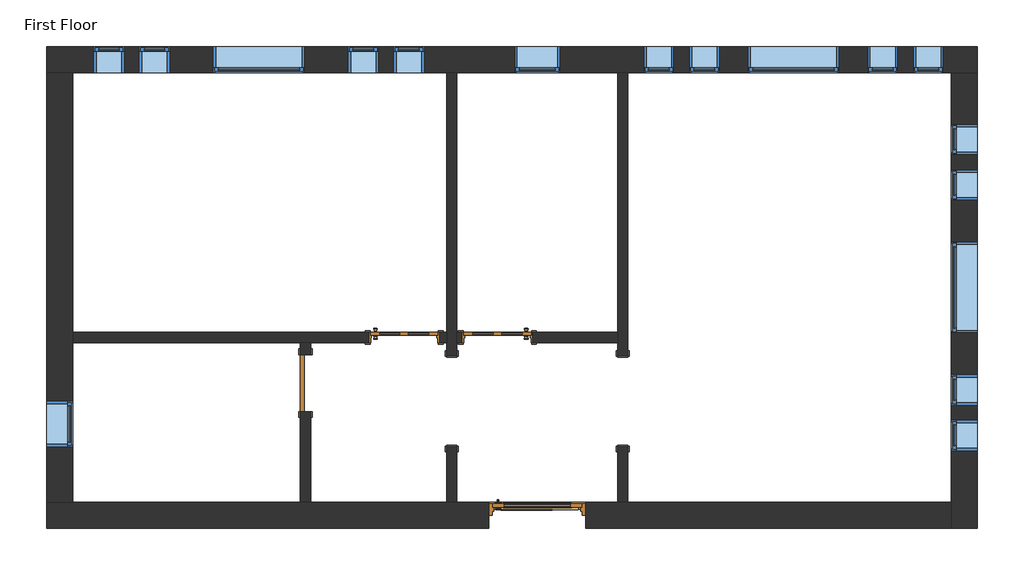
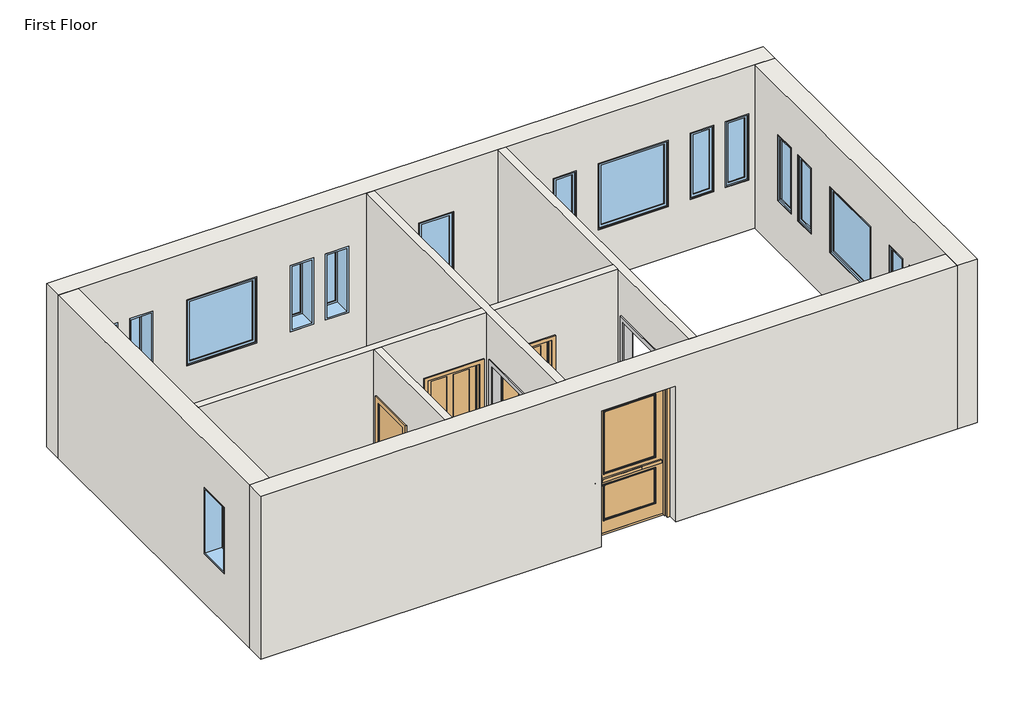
# One storey: 17 windows, 8 walls, 4 doors, 2 proxies.
"""IFC4 building model written with IfcOpenShell, lengths in millimetres."""

from ifc_helpers import new_model, si_unit, frame, origin, place, context, project, spatial, polyline, outline, extrude, faceted_brep, transform, mapped, element, save
from components import m_passage_opening_cased_1220_x_2134_mm_87a8d9c2, m_door_exterior_single_two_lite_1200_x_2400mm_30e12bfc, m_door_interior_single_4_panel_wood_900_x_2100mm_1f4ed184, m_door_interior_single_4_panel_wood_900_x_2100mm_40914eee, m_single_flush_0762_x_2134mm_0d89e411, m_fixed_0406_x_1220mm_57fee329, m_fixed_0406_x_1220mm_85c28f40, m_fixed_0610_x_1220mm_2c28ef1d, m_fixed_1220_x_1220_e08ff7af

model = new_model("IFC4")

# Units and contexts
model_context = context("Model", 3, world=origin())
ifc_project = project(units=[si_unit("LENGTHUNIT", "METRE", prefix="MILLI")], contexts=[model_context])

# Site, building, storey
site = spatial("IfcSite", under=ifc_project)
building = spatial("IfcBuilding", under=site)
storey = spatial("IfcBuildingStorey", under=building, Name="First Floor", Elevation=0.0)

# Proxies
placement = place(None, origin())
m_passage_opening_cased_1220_x_2134_mm_shape = m_passage_opening_cased_1220_x_2134_mm_87a8d9c2(model_context)
element("IfcBuildingElementProxy", 1, Name="M_Passage Opening-Cased : 1220 x 2134 mm", ObjectType="M_Passage Opening-Cased : 1220 x 2134 mm", at=placement, inside=storey, context=model_context, shape_type="MappedRepresentation", body=[
    mapped(m_passage_opening_cased_1220_x_2134_mm_shape, transform((-10841.0930086, 9462.255705, 0.0), x_axis=(0.0, 1.0, 0.0), y_axis=(-1.0, 0.0, 0.0), z_axis=(0.0, 0.0, 1.0))),
])
element("IfcBuildingElementProxy", 2, Name="M_Passage Opening-Cased : 1220 x 2134 mm", ObjectType="M_Passage Opening-Cased : 1220 x 2134 mm", at=placement, inside=storey, context=model_context, shape_type="MappedRepresentation", body=[
    mapped(m_passage_opening_cased_1220_x_2134_mm_shape, transform((-13127.0930086, 9445.8783915, 0.0), x_axis=(0.0, -1.0, 0.0), y_axis=(1.0, 0.0, 0.0), z_axis=(0.0, 0.0, 1.0))),
])

# Doors
m_door_exterior_single_two_lite_1200_x_2400mm_shape = m_door_exterior_single_two_lite_1200_x_2400mm_30e12bfc(model_context)
element("IfcDoor", 3, ObjectType="M_Door-Exterior-Single-Two_Lite : 1200 x 2400mm", at=placement, inside=storey, context=model_context, shape_type="MappedRepresentation", body=[
    mapped(m_door_exterior_single_two_lite_1200_x_2400mm_shape, transform((-11984.0930086, 7923.7170483, 0.0), x_axis=(1.0, 0.0, 0.0), y_axis=(0.0, 1.0, 0.0), z_axis=(0.0, 0.0, 1.0))),
])
m_door_interior_single_4_panel_wood_900_x_2100mm_shape = m_door_interior_single_4_panel_wood_900_x_2100mm_1f4ed184(model_context)
element("IfcDoor", 4, ObjectType="M_Door-Interior-Single-4_Panel-Wood : 900 x 2100mm", at=placement, inside=storey, context=model_context, shape_type="MappedRepresentation", body=[
    mapped(m_door_interior_single_4_panel_wood_900_x_2100mm_shape, transform((-12518.0930086, 10309.9920483, 0.0), x_axis=(-1.0, 0.0, 0.0), y_axis=(0.0, -1.0, 0.0), z_axis=(0.0, 0.0, 1.0))),
])
m_door_interior_single_4_panel_wood_900_x_2100mm_2_shape = m_door_interior_single_4_panel_wood_900_x_2100mm_40914eee(model_context)
element("IfcDoor", 5, ObjectType="M_Door-Interior-Single-4_Panel-Wood : 900 x 2100mm", at=placement, inside=storey, context=model_context, shape_type="MappedRepresentation", body=[
    mapped(m_door_interior_single_4_panel_wood_900_x_2100mm_2_shape, transform((-13766.0930086, 10309.9920483, 0.0), x_axis=(1.0, 0.0, 0.0), y_axis=(0.0, 1.0, 0.0), z_axis=(0.0, 0.0, 1.0))),
])
m_single_flush_0762_x_2134mm_shape = m_single_flush_0762_x_2134mm_0d89e411(model_context)
element("IfcDoor", 6, ObjectType="M_Single-Flush : 0762 x 2134mm", at=placement, inside=storey, context=model_context, shape_type="MappedRepresentation", body=[
    mapped(m_single_flush_0762_x_2134mm_shape, transform((-15086.0930086, 9696.8170483, 0.0), x_axis=(0.0, 1.0, 0.0), y_axis=(-1.0, 0.0, 0.0), z_axis=(0.0, 0.0, 1.0))),
])

# Walls
element("IfcWall", 7, ObjectType="Exterior - Brick on Mtl. Stud", at=placement, inside=storey, context=model_context, shape_type="Brep", body=[
    faceted_brep([(-18551.8430086, 13851.0670483, 0.0), (-18201.8430086, 13851.0670483, 0.0), (-13194.8430086, 13851.0670483, 0.0), (-13059.3430086, 13851.0670483, 0.0), (-10908.8430086, 13851.0670483, 0.0), (-10773.3430086, 13851.0670483, 0.0), (-6444.0930086, 13851.0670483, 0.0), (-6094.0930086, 13851.0670483, 0.0), (-6094.0930086, 13851.0670483, 3000.0), (-6444.0930086, 13851.0670483, 3000.0), (-10773.3430086, 13851.0670483, 3000.0), (-10908.8430086, 13851.0670483, 3000.0), (-13059.3430086, 13851.0670483, 3000.0), (-13194.8430086, 13851.0670483, 3000.0), (-18201.8430086, 13851.0670483, 3000.0), (-18551.8430086, 13851.0670483, 3000.0), (-11679.0930086, 13851.0670483, 915.0), (-12289.0930086, 13851.0670483, 915.0), (-12289.0930086, 13851.0670483, 2135.0), (-11679.0930086, 13851.0670483, 2135.0), (-15099.8430086, 13851.0670483, 915.0), (-16319.8430086, 13851.0670483, 915.0), (-16319.8430086, 13851.0670483, 2135.0), (-15099.8430086, 13851.0670483, 2135.0), (-7945.0930086, 13851.0670483, 915.0), (-9165.0930086, 13851.0670483, 915.0), (-9165.0930086, 13851.0670483, 2135.0), (-7945.0930086, 13851.0670483, 2135.0), (-17919.4430086, 13851.0670483, 915.0), (-17919.4430086, 13851.0670483, 2135.0), (-17513.4430086, 13851.0670483, 2135.0), (-17513.4430086, 13851.0670483, 915.0), (-17309.8430086, 13851.0670483, 915.0), (-17309.8430086, 13851.0670483, 2135.0), (-16903.8430086, 13851.0670483, 2135.0), (-16903.8430086, 13851.0670483, 915.0), (-14109.8430086, 13851.0670483, 915.0), (-14515.8430086, 13851.0670483, 915.0), (-14515.8430086, 13851.0670483, 2135.0), (-14109.8430086, 13851.0670483, 2135.0), (-13500.2430086, 13851.0670483, 915.0), (-13906.2430086, 13851.0670483, 915.0), (-13906.2430086, 13851.0670483, 2135.0), (-13500.2430086, 13851.0670483, 2135.0), (-10155.0930086, 13851.0670483, 915.0), (-10561.0930086, 13851.0670483, 915.0), (-10561.0930086, 13851.0670483, 2135.0), (-10155.0930086, 13851.0670483, 2135.0), (-9545.4930086, 13851.0670483, 915.0), (-9951.4930086, 13851.0670483, 915.0), (-9951.4930086, 13851.0670483, 2135.0), (-9545.4930086, 13851.0670483, 2135.0), (-6955.0930086, 13851.0670483, 915.0), (-6955.0930086, 13851.0670483, 2135.0), (-6549.0930086, 13851.0670483, 2135.0), (-6549.0930086, 13851.0670483, 915.0), (-7564.6930086, 13851.0670483, 915.0), (-7564.6930086, 13851.0670483, 2135.0), (-7158.6930086, 13851.0670483, 2135.0), (-7158.6930086, 13851.0670483, 915.0), (-18551.8430086, 14201.0670483, 0.0), (-18551.8430086, 14201.0670483, 3000.0), (-6094.0930086, 14201.0670483, 3000.0), (-6094.0930086, 14201.0670483, 0.0), (-11679.0930086, 14201.0670483, 915.0), (-11679.0930086, 14201.0670483, 2135.0), (-12289.0930086, 14201.0670483, 2135.0), (-12289.0930086, 14201.0670483, 915.0), (-15099.8430086, 14201.0670483, 915.0), (-15099.8430086, 14201.0670483, 2135.0), (-16319.8430086, 14201.0670483, 2135.0), (-16319.8430086, 14201.0670483, 915.0), (-7945.0930086, 14201.0670483, 915.0), (-7945.0930086, 14201.0670483, 2135.0), (-9165.0930086, 14201.0670483, 2135.0), (-9165.0930086, 14201.0670483, 915.0), (-17919.4430086, 14201.0670483, 915.0), (-17513.4430086, 14201.0670483, 915.0), (-17513.4430086, 14201.0670483, 2135.0), (-17919.4430086, 14201.0670483, 2135.0), (-17309.8430086, 14201.0670483, 915.0), (-16903.8430086, 14201.0670483, 915.0), (-16903.8430086, 14201.0670483, 2135.0), (-17309.8430086, 14201.0670483, 2135.0), (-14109.8430086, 14201.0670483, 915.0), (-14109.8430086, 14201.0670483, 2135.0), (-14515.8430086, 14201.0670483, 2135.0), (-14515.8430086, 14201.0670483, 915.0), (-13500.2430086, 14201.0670483, 915.0), (-13500.2430086, 14201.0670483, 2135.0), (-13906.2430086, 14201.0670483, 2135.0), (-13906.2430086, 14201.0670483, 915.0), (-10155.0930086, 14201.0670483, 915.0), (-10155.0930086, 14201.0670483, 2135.0), (-10561.0930086, 14201.0670483, 2135.0), (-10561.0930086, 14201.0670483, 915.0), (-9545.4930086, 14201.0670483, 915.0), (-9545.4930086, 14201.0670483, 2135.0), (-9951.4930086, 14201.0670483, 2135.0), (-9951.4930086, 14201.0670483, 915.0), (-6955.0930086, 14201.0670483, 915.0), (-6549.0930086, 14201.0670483, 915.0), (-6549.0930086, 14201.0670483, 2135.0), (-6955.0930086, 14201.0670483, 2135.0), (-7564.6930086, 14201.0670483, 915.0), (-7158.6930086, 14201.0670483, 915.0), (-7158.6930086, 14201.0670483, 2135.0), (-7564.6930086, 14201.0670483, 2135.0)], [[[0, 1, 2, 3, 4, 5, 6, 7, 8, 9, 10, 11, 12, 13, 14, 15], [16, 17, 18, 19], [20, 21, 22, 23], [24, 25, 26, 27], [28, 29, 30, 31], [32, 33, 34, 35], [36, 37, 38, 39], [40, 41, 42, 43], [44, 45, 46, 47], [48, 49, 50, 51], [52, 53, 54, 55], [56, 57, 58, 59]], [[60, 61, 62, 63], [64, 65, 66, 67], [68, 69, 70, 71], [72, 73, 74, 75], [76, 77, 78, 79], [80, 81, 82, 83], [84, 85, 86, 87], [88, 89, 90, 91], [92, 93, 94, 95], [96, 97, 98, 99], [100, 101, 102, 103], [104, 105, 106, 107]], [[7, 6, 5, 4, 3, 2, 1, 0, 60, 63]], [[15, 14, 13, 12, 11, 10, 9, 8, 62, 61]], [[8, 7, 63, 62]], [[0, 15, 61, 60]], [[65, 64, 16, 19]], [[66, 65, 19, 18]], [[67, 66, 18, 17]], [[64, 67, 17, 16]], [[69, 68, 20, 23]], [[70, 69, 23, 22]], [[71, 70, 22, 21]], [[68, 71, 21, 20]], [[73, 72, 24, 27]], [[74, 73, 27, 26]], [[75, 74, 26, 25]], [[72, 75, 25, 24]], [[29, 28, 76, 79]], [[30, 29, 79, 78]], [[31, 30, 78, 77]], [[28, 31, 77, 76]], [[33, 32, 80, 83]], [[34, 33, 83, 82]], [[35, 34, 82, 81]], [[32, 35, 81, 80]], [[85, 84, 36, 39]], [[86, 85, 39, 38]], [[87, 86, 38, 37]], [[84, 87, 37, 36]], [[89, 88, 40, 43]], [[90, 89, 43, 42]], [[91, 90, 42, 41]], [[88, 91, 41, 40]], [[93, 92, 44, 47]], [[94, 93, 47, 46]], [[95, 94, 46, 45]], [[92, 95, 45, 44]], [[97, 96, 48, 51]], [[98, 97, 51, 50]], [[99, 98, 50, 49]], [[96, 99, 49, 48]], [[53, 52, 100, 103]], [[54, 53, 103, 102]], [[55, 54, 102, 101]], [[52, 55, 101, 100]], [[57, 56, 104, 107]], [[58, 57, 107, 106]], [[59, 58, 106, 105]], [[56, 59, 105, 104]]]),
])
element("IfcWall", 8, ObjectType="Exterior - Brick on Mtl. Stud", at=placement, inside=storey, context=model_context, shape_type="Brep", body=[
    faceted_brep([(-6444.0930086, 13851.0670483, 0.0), (-6444.0930086, 8105.0670483, 0.0), (-6444.0930086, 7755.0670483, 0.0), (-6444.0930086, 7755.0670483, 3000.0), (-6444.0930086, 8105.0670483, 3000.0), (-6444.0930086, 13851.0670483, 3000.0), (-6444.0930086, 10368.0670483, 915.0), (-6444.0930086, 11588.0670483, 915.0), (-6444.0930086, 11588.0670483, 2135.0), (-6444.0930086, 10368.0670483, 2135.0), (-6444.0930086, 12756.2670483, 915.0), (-6444.0930086, 13162.2670483, 915.0), (-6444.0930086, 13162.2670483, 2135.0), (-6444.0930086, 12756.2670483, 2135.0), (-6444.0930086, 12146.6670483, 915.0), (-6444.0930086, 12552.6670483, 915.0), (-6444.0930086, 12552.6670483, 2135.0), (-6444.0930086, 12146.6670483, 2135.0), (-6444.0930086, 9199.8670483, 915.0), (-6444.0930086, 9199.8670483, 2135.0), (-6444.0930086, 8793.8670483, 2135.0), (-6444.0930086, 8793.8670483, 915.0), (-6444.0930086, 9809.4670483, 915.0), (-6444.0930086, 9809.4670483, 2135.0), (-6444.0930086, 9403.4670483, 2135.0), (-6444.0930086, 9403.4670483, 915.0), (-6094.0930086, 13851.0670483, 0.0), (-6094.0930086, 13851.0670483, 3000.0), (-6094.0930086, 7755.0670483, 3000.0), (-6094.0930086, 7755.0670483, 0.0), (-6094.0930086, 10368.0670483, 915.0), (-6094.0930086, 10368.0670483, 2135.0), (-6094.0930086, 11588.0670483, 2135.0), (-6094.0930086, 11588.0670483, 915.0), (-6094.0930086, 12756.2670483, 915.0), (-6094.0930086, 12756.2670483, 2135.0), (-6094.0930086, 13162.2670483, 2135.0), (-6094.0930086, 13162.2670483, 915.0), (-6094.0930086, 12146.6670483, 915.0), (-6094.0930086, 12146.6670483, 2135.0), (-6094.0930086, 12552.6670483, 2135.0), (-6094.0930086, 12552.6670483, 915.0), (-6094.0930086, 9199.8670483, 915.0), (-6094.0930086, 8793.8670483, 915.0), (-6094.0930086, 8793.8670483, 2135.0), (-6094.0930086, 9199.8670483, 2135.0), (-6094.0930086, 9809.4670483, 915.0), (-6094.0930086, 9403.4670483, 915.0), (-6094.0930086, 9403.4670483, 2135.0), (-6094.0930086, 9809.4670483, 2135.0)], [[[0, 1, 2, 3, 4, 5], [6, 7, 8, 9], [10, 11, 12, 13], [14, 15, 16, 17], [18, 19, 20, 21], [22, 23, 24, 25]], [[26, 27, 28, 29], [30, 31, 32, 33], [34, 35, 36, 37], [38, 39, 40, 41], [42, 43, 44, 45], [46, 47, 48, 49]], [[2, 1, 0, 26, 29]], [[5, 4, 3, 28, 27]], [[0, 5, 27, 26]], [[3, 2, 29, 28]], [[31, 30, 6, 9]], [[32, 31, 9, 8]], [[33, 32, 8, 7]], [[30, 33, 7, 6]], [[35, 34, 10, 13]], [[36, 35, 13, 12]], [[37, 36, 12, 11]], [[34, 37, 11, 10]], [[39, 38, 14, 17]], [[40, 39, 17, 16]], [[41, 40, 16, 15]], [[38, 41, 15, 14]], [[19, 18, 42, 45]], [[20, 19, 45, 44]], [[21, 20, 44, 43]], [[18, 21, 43, 42]], [[23, 22, 46, 49]], [[24, 23, 49, 48]], [[25, 24, 48, 47]], [[22, 25, 47, 46]]]),
])
element("IfcWall", 9, ObjectType="Exterior - Brick on Mtl. Stud", at=placement, inside=storey, context=model_context, shape_type="Brep", body=[
    faceted_brep([(-18551.8430086, 8105.0670483, 3000.0), (-18201.8430086, 8105.0670483, 3000.0), (-15153.8430086, 8105.0670483, 3000.0), (-15018.3430086, 8105.0670483, 3000.0), (-13194.8430086, 8105.0670483, 3000.0), (-13059.3430086, 8105.0670483, 3000.0), (-10908.8430086, 8105.0670483, 3000.0), (-10773.3430086, 8105.0670483, 3000.0), (-6444.0930086, 8105.0670483, 3000.0), (-6444.0930086, 8105.0670483, 0.0), (-10773.3430086, 8105.0670483, 0.0), (-10908.8430086, 8105.0670483, 0.0), (-11334.0930086, 8105.0670483, 0.0), (-11334.0930086, 8105.0670483, 2500.0), (-12634.0930086, 8105.0670483, 2500.0), (-12634.0930086, 8105.0670483, 0.0), (-13059.3430086, 8105.0670483, 0.0), (-13194.8430086, 8105.0670483, 0.0), (-15018.3430086, 8105.0670483, 0.0), (-15153.8430086, 8105.0670483, 0.0), (-18201.8430086, 8105.0670483, 0.0), (-18551.8430086, 8105.0670483, 0.0), (-6444.0930086, 7755.0670483, 3000.0), (-18551.8430086, 7755.0670483, 3000.0), (-18551.8430086, 7755.0670483, 0.0), (-12634.0930086, 7755.0670483, 0.0), (-12634.0930086, 7755.0670483, 2500.0), (-11334.0930086, 7755.0670483, 2500.0), (-11334.0930086, 7755.0670483, 0.0), (-6444.0930086, 7755.0670483, 0.0)], [[[0, 1, 2, 3, 4, 5, 6, 7, 8, 9, 10, 11, 12, 13, 14, 15, 16, 17, 18, 19, 20, 21]], [[22, 23, 24, 25, 26, 27, 28, 29]], [[9, 29, 28, 12, 11, 10]], [[24, 21, 20, 19, 18, 17, 16, 15, 25]], [[8, 7, 6, 5, 4, 3, 2, 1, 0, 23, 22]], [[9, 8, 22, 29]], [[0, 21, 24, 23]], [[27, 13, 12, 28]], [[13, 27, 26, 14]], [[14, 26, 25, 15]]]),
])
element("IfcWall", 10, ObjectType="Exterior - Brick on Mtl. Stud", at=placement, inside=storey, context=model_context, shape_type="Brep", body=[
    faceted_brep([(-18201.8430086, 8105.0670483, 0.0), (-18201.8430086, 10239.0670483, 0.0), (-18201.8430086, 10374.5670483, 0.0), (-18201.8430086, 13851.0670483, 0.0), (-18201.8430086, 13851.0670483, 3000.0), (-18201.8430086, 10374.5670483, 3000.0), (-18201.8430086, 10239.0670483, 3000.0), (-18201.8430086, 8105.0670483, 3000.0), (-18201.8430086, 9455.0670483, 915.0), (-18201.8430086, 8845.0670483, 915.0), (-18201.8430086, 8845.0670483, 2135.0), (-18201.8430086, 9455.0670483, 2135.0), (-18551.8430086, 8105.0670483, 0.0), (-18551.8430086, 8105.0670483, 3000.0), (-18551.8430086, 13851.0670483, 3000.0), (-18551.8430086, 13851.0670483, 0.0), (-18551.8430086, 9455.0670483, 915.0), (-18551.8430086, 9455.0670483, 2135.0), (-18551.8430086, 8845.0670483, 2135.0), (-18551.8430086, 8845.0670483, 915.0)], [[[0, 1, 2, 3, 4, 5, 6, 7], [8, 9, 10, 11]], [[12, 13, 14, 15], [16, 17, 18, 19]], [[3, 2, 1, 0, 12, 15]], [[7, 6, 5, 4, 14, 13]], [[0, 7, 13, 12]], [[4, 3, 15, 14]], [[17, 16, 8, 11]], [[18, 17, 11, 10]], [[19, 18, 10, 9]], [[16, 19, 9, 8]]]),
])
element("IfcWall", 11, ObjectType="Interior - 135mm Partition (2-hr)", at=placement, inside=storey, context=model_context, shape_type="Brep", body=[
    faceted_brep([(-10908.8430086, 13851.0670483, 0.0), (-10908.8430086, 10374.5670483, 0.0), (-10908.8430086, 10239.0670483, 0.0), (-10908.8430086, 10064.0670483, 0.0), (-10908.8430086, 10064.0670483, 2134.0), (-10908.8430086, 8844.0670483, 2134.0), (-10908.8430086, 8844.0670483, 0.0), (-10908.8430086, 8105.0670483, 0.0), (-10908.8430086, 8105.0670483, 3000.0), (-10908.8430086, 10239.0670483, 3000.0), (-10908.8430086, 10374.5670483, 3000.0), (-10908.8430086, 13851.0670483, 3000.0), (-10773.3430086, 10064.0670483, 2134.0), (-10773.3430086, 10064.0670483, 0.0), (-10773.3430086, 13851.0670483, 0.0), (-10773.3430086, 13851.0670483, 3000.0), (-10773.3430086, 8105.0670483, 3000.0), (-10773.3430086, 8105.0670483, 0.0), (-10773.3430086, 8844.0670483, 0.0), (-10773.3430086, 8844.0670483, 2134.0)], [[[0, 1, 2, 3, 4, 5, 6, 7, 8, 9, 10, 11]], [[12, 13, 14, 15, 16, 17, 18, 19]], [[18, 17, 7, 6]], [[14, 13, 3, 2, 1, 0]], [[11, 10, 9, 8, 16, 15]], [[0, 11, 15, 14]], [[8, 7, 17, 16]], [[6, 5, 19, 18]], [[4, 3, 13, 12]], [[5, 4, 12, 19]]]),
])
element("IfcWall", 12, ObjectType="Interior - 135mm Partition (2-hr)", at=placement, inside=storey, context=model_context, shape_type="Brep", body=[
    faceted_brep([(-13194.8430086, 8105.0670483, 3000.0), (-13194.8430086, 10239.0670483, 3000.0), (-13194.8430086, 10374.5670483, 3000.0), (-13194.8430086, 13851.0670483, 3000.0), (-13194.8430086, 13851.0670483, 0.0), (-13194.8430086, 10374.5670483, 0.0), (-13194.8430086, 10239.0670483, 0.0), (-13194.8430086, 10064.0670483, 0.0), (-13194.8430086, 10064.0670483, 2134.0), (-13194.8430086, 8844.0670483, 2134.0), (-13194.8430086, 8844.0670483, 0.0), (-13194.8430086, 8105.0670483, 0.0), (-13059.3430086, 13851.0670483, 3000.0), (-13059.3430086, 10374.5670483, 3000.0), (-13059.3430086, 10239.0670483, 3000.0), (-13059.3430086, 8105.0670483, 3000.0), (-13059.3430086, 8105.0670483, 0.0), (-13059.3430086, 8844.0670483, 0.0), (-13059.3430086, 8844.0670483, 2134.0), (-13059.3430086, 10064.0670483, 2134.0), (-13059.3430086, 10064.0670483, 0.0), (-13059.3430086, 10239.0670483, 0.0), (-13059.3430086, 10374.5670483, 0.0), (-13059.3430086, 13851.0670483, 0.0)], [[[0, 1, 2, 3, 4, 5, 6, 7, 8, 9, 10, 11]], [[12, 13, 14, 15, 16, 17, 18, 19, 20, 21, 22, 23]], [[4, 23, 22, 21, 20, 7, 6, 5]], [[16, 11, 10, 17]], [[3, 2, 1, 0, 15, 14, 13, 12]], [[4, 3, 12, 23]], [[0, 11, 16, 15]], [[19, 8, 7, 20]], [[9, 18, 17, 10]], [[8, 19, 18, 9]]]),
])
element("IfcWall", 13, ObjectType="Interior - 135mm Partition (2-hr)", at=placement, inside=storey, context=model_context, shape_type="Brep", body=[
    faceted_brep([(-18201.8430086, 10239.0670483, 3000.0), (-18201.8430086, 10239.0670483, 0.0), (-15153.8430086, 10239.0670483, 0.0), (-15018.3430086, 10239.0670483, 0.0), (-14241.0930086, 10239.0670483, 0.0), (-14241.0930086, 10239.0670483, 2125.0), (-13291.0930086, 10239.0670483, 2125.0), (-13291.0930086, 10239.0670483, 0.0), (-13194.8430086, 10239.0670483, 0.0), (-13194.8430086, 10239.0670483, 3000.0), (-15018.3430086, 10239.0670483, 3000.0), (-15153.8430086, 10239.0670483, 3000.0), (-18201.8430086, 10374.5670483, 0.0), (-18201.8430086, 10374.5670483, 3000.0), (-13194.8430086, 10374.5670483, 3000.0), (-13194.8430086, 10374.5670483, 0.0), (-13291.0930086, 10374.5670483, 0.0), (-13291.0930086, 10374.5670483, 2125.0), (-14241.0930086, 10374.5670483, 2125.0), (-14241.0930086, 10374.5670483, 0.0)], [[[0, 1, 2, 3, 4, 5, 6, 7, 8, 9, 10, 11]], [[12, 13, 14, 15, 16, 17, 18, 19]], [[1, 12, 19, 4, 3, 2]], [[7, 16, 15, 8]], [[13, 0, 11, 10, 9, 14]], [[1, 0, 13, 12]], [[9, 8, 15, 14]], [[6, 17, 16, 7]], [[17, 6, 5, 18]], [[18, 5, 4, 19]]]),
    faceted_brep([(-10908.8430086, 10239.0670483, 0.0), (-10908.8430086, 10239.0670483, 3000.0), (-13059.3430086, 10239.0670483, 3000.0), (-13059.3430086, 10239.0670483, 0.0), (-12993.0930086, 10239.0670483, 0.0), (-12993.0930086, 10239.0670483, 2125.0), (-12043.0930086, 10239.0670483, 2125.0), (-12043.0930086, 10239.0670483, 0.0), (-10908.8430086, 10374.5670483, 3000.0), (-10908.8430086, 10374.5670483, 0.0), (-12043.0930086, 10374.5670483, 0.0), (-12043.0930086, 10374.5670483, 2125.0), (-12993.0930086, 10374.5670483, 2125.0), (-12993.0930086, 10374.5670483, 0.0), (-13059.3430086, 10374.5670483, 0.0), (-13059.3430086, 10374.5670483, 3000.0)], [[[0, 1, 2, 3, 4, 5, 6, 7]], [[8, 9, 10, 11, 12, 13, 14, 15]], [[9, 0, 7, 10]], [[13, 4, 3, 14]], [[1, 8, 15, 2]], [[1, 0, 9, 8]], [[3, 2, 15, 14]], [[5, 4, 13, 12]], [[6, 5, 12, 11]], [[7, 6, 11, 10]]]),
])
element("IfcWall", 14, ObjectType="Interior - 135mm Partition (2-hr)", at=placement, inside=storey, context=model_context, shape_type="SweptSolid", body=[
    extrude(outline(polyline([(10239.0670483, 0.0), (10077.8170483, 0.0), (10077.8170483, 2134.0), (9315.8170483, 2134.0), (9315.8170483, 0.0), (8105.0670483, 0.0), (8105.0670483, 3000.0), (10239.0670483, 3000.0), (10239.0670483, 0.0)])), frame((-15153.8430086, 0.0, 0.0), z_axis=(1.0, 0.0, 0.0), x_axis=(0.0, 1.0, 0.0)), (0.0, 0.0, 1.0), 135.5),
])

# Windows
m_fixed_0406_x_1220mm_shape = m_fixed_0406_x_1220mm_57fee329(model_context)
element("IfcWindow", 15, ObjectType="M_Fixed : 0406 x 1220mm", at=placement, inside=storey, context=model_context, shape_type="MappedRepresentation", body=[
    mapped(m_fixed_0406_x_1220mm_shape, transform((-17716.4430086, 14013.0670483, 0.0), x_axis=(1.0, 0.0, 0.0), y_axis=(0.0, 1.0, 0.0), z_axis=(0.0, 0.0, 1.0))),
])
element("IfcWindow", 16, ObjectType="M_Fixed : 0406 x 1220mm", at=placement, inside=storey, context=model_context, shape_type="MappedRepresentation", body=[
    mapped(m_fixed_0406_x_1220mm_shape, transform((-17106.8430086, 14013.0670483, 0.0), x_axis=(1.0, 0.0, 0.0), y_axis=(0.0, 1.0, 0.0), z_axis=(0.0, 0.0, 1.0))),
])
element("IfcWindow", 17, ObjectType="M_Fixed : 0406 x 1220mm", at=placement, inside=storey, context=model_context, shape_type="MappedRepresentation", body=[
    mapped(m_fixed_0406_x_1220mm_shape, transform((-9748.4930086, 14039.0670483, 0.0), x_axis=(-1.0, 0.0, 0.0), y_axis=(0.0, -1.0, 0.0), z_axis=(0.0, 0.0, 1.0))),
])
element("IfcWindow", 18, ObjectType="M_Fixed : 0406 x 1220mm", at=placement, inside=storey, context=model_context, shape_type="MappedRepresentation", body=[
    mapped(m_fixed_0406_x_1220mm_shape, transform((-10358.0930086, 14039.0670483, 0.0), x_axis=(-1.0, 0.0, 0.0), y_axis=(0.0, -1.0, 0.0), z_axis=(0.0, 0.0, 1.0))),
])
element("IfcWindow", 19, ObjectType="M_Fixed : 0406 x 1220mm", at=placement, inside=storey, context=model_context, shape_type="MappedRepresentation", body=[
    mapped(m_fixed_0406_x_1220mm_shape, transform((-6256.0930086, 12349.6670483, 0.0), x_axis=(0.0, 1.0, 0.0), y_axis=(-1.0, 0.0, 0.0), z_axis=(0.0, 0.0, 1.0))),
])
element("IfcWindow", 20, ObjectType="M_Fixed : 0406 x 1220mm", at=placement, inside=storey, context=model_context, shape_type="MappedRepresentation", body=[
    mapped(m_fixed_0406_x_1220mm_shape, transform((-6256.0930086, 12959.2670483, 0.0), x_axis=(0.0, 1.0, 0.0), y_axis=(-1.0, 0.0, 0.0), z_axis=(0.0, 0.0, 1.0))),
])
m_fixed_0406_x_1220mm_2_shape = m_fixed_0406_x_1220mm_85c28f40(model_context)
element("IfcWindow", 21, ObjectType="M_Fixed : 0406 x 1220mm", at=placement, inside=storey, context=model_context, shape_type="MappedRepresentation", body=[
    mapped(m_fixed_0406_x_1220mm_2_shape, transform((-13703.2430086, 14013.0670483, 0.0), x_axis=(-1.0, 0.0, 0.0), y_axis=(0.0, -1.0, 0.0), z_axis=(0.0, 0.0, 1.0))),
])
element("IfcWindow", 22, ObjectType="M_Fixed : 0406 x 1220mm", at=placement, inside=storey, context=model_context, shape_type="MappedRepresentation", body=[
    mapped(m_fixed_0406_x_1220mm_2_shape, transform((-14312.8430086, 14013.0670483, 0.0), x_axis=(-1.0, 0.0, 0.0), y_axis=(0.0, -1.0, 0.0), z_axis=(0.0, 0.0, 1.0))),
])
element("IfcWindow", 23, ObjectType="M_Fixed : 0406 x 1220mm", at=placement, inside=storey, context=model_context, shape_type="MappedRepresentation", body=[
    mapped(m_fixed_0406_x_1220mm_2_shape, transform((-7361.6930086, 14039.0670483, 0.0), x_axis=(1.0, 0.0, 0.0), y_axis=(0.0, 1.0, 0.0), z_axis=(0.0, 0.0, 1.0))),
])
element("IfcWindow", 24, ObjectType="M_Fixed : 0406 x 1220mm", at=placement, inside=storey, context=model_context, shape_type="MappedRepresentation", body=[
    mapped(m_fixed_0406_x_1220mm_2_shape, transform((-6752.0930086, 14039.0670483, 0.0), x_axis=(1.0, 0.0, 0.0), y_axis=(0.0, 1.0, 0.0), z_axis=(0.0, 0.0, 1.0))),
])
element("IfcWindow", 25, ObjectType="M_Fixed : 0406 x 1220mm", at=placement, inside=storey, context=model_context, shape_type="MappedRepresentation", body=[
    mapped(m_fixed_0406_x_1220mm_2_shape, transform((-6256.0930086, 9606.4670483, 0.0), x_axis=(0.0, -1.0, 0.0), y_axis=(1.0, 0.0, 0.0), z_axis=(0.0, 0.0, 1.0))),
])
element("IfcWindow", 26, ObjectType="M_Fixed : 0406 x 1220mm", at=placement, inside=storey, context=model_context, shape_type="MappedRepresentation", body=[
    mapped(m_fixed_0406_x_1220mm_2_shape, transform((-6256.0930086, 8996.8670483, 0.0), x_axis=(0.0, -1.0, 0.0), y_axis=(1.0, 0.0, 0.0), z_axis=(0.0, 0.0, 1.0))),
])
m_fixed_0610_x_1220mm_shape = m_fixed_0610_x_1220mm_2c28ef1d(model_context)
element("IfcWindow", 27, ObjectType="M_Fixed : 0610 x 1220mm", at=placement, inside=storey, context=model_context, shape_type="MappedRepresentation", body=[
    mapped(m_fixed_0610_x_1220mm_shape, transform((-11984.0930086, 14039.0670483, 0.0), x_axis=(-1.0, 0.0, 0.0), y_axis=(0.0, -1.0, 0.0), z_axis=(0.0, 0.0, 1.0))),
])
element("IfcWindow", 28, ObjectType="M_Fixed : 0610 x 1220mm", at=placement, inside=storey, context=model_context, shape_type="MappedRepresentation", body=[
    mapped(m_fixed_0610_x_1220mm_shape, transform((-18389.8430086, 9150.0670483, 0.0), x_axis=(0.0, -1.0, 0.0), y_axis=(1.0, 0.0, 0.0), z_axis=(0.0, 0.0, 1.0))),
])
m_fixed_1220_x_1220_shape = m_fixed_1220_x_1220_e08ff7af(model_context)
element("IfcWindow", 29, ObjectType="M_Fixed : 1220 x 1220", at=placement, inside=storey, context=model_context, shape_type="MappedRepresentation", body=[
    mapped(m_fixed_1220_x_1220_shape, transform((-15709.8430086, 14039.0670483, 0.0), x_axis=(-1.0, 0.0, 0.0), y_axis=(0.0, -1.0, 0.0), z_axis=(0.0, 0.0, 1.0))),
])
element("IfcWindow", 30, ObjectType="M_Fixed : 1220 x 1220", at=placement, inside=storey, context=model_context, shape_type="MappedRepresentation", body=[
    mapped(m_fixed_1220_x_1220_shape, transform((-8555.0930086, 14039.0670483, 0.0), x_axis=(-1.0, 0.0, 0.0), y_axis=(0.0, -1.0, 0.0), z_axis=(0.0, 0.0, 1.0))),
])
element("IfcWindow", 31, ObjectType="M_Fixed : 1220 x 1220", at=placement, inside=storey, context=model_context, shape_type="MappedRepresentation", body=[
    mapped(m_fixed_1220_x_1220_shape, transform((-6256.0930086, 10978.0670483, 0.0), x_axis=(0.0, 1.0, 0.0), y_axis=(-1.0, 0.0, 0.0), z_axis=(0.0, 0.0, 1.0))),
])

save(model, "model.ifc")
